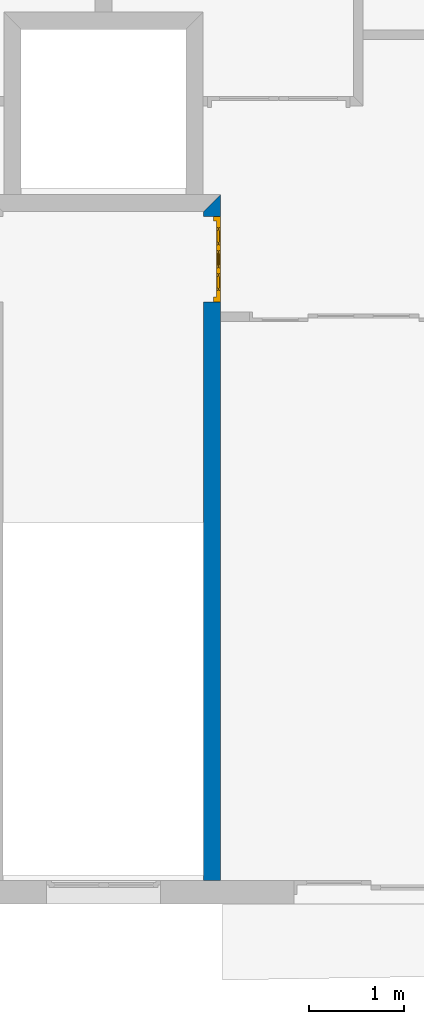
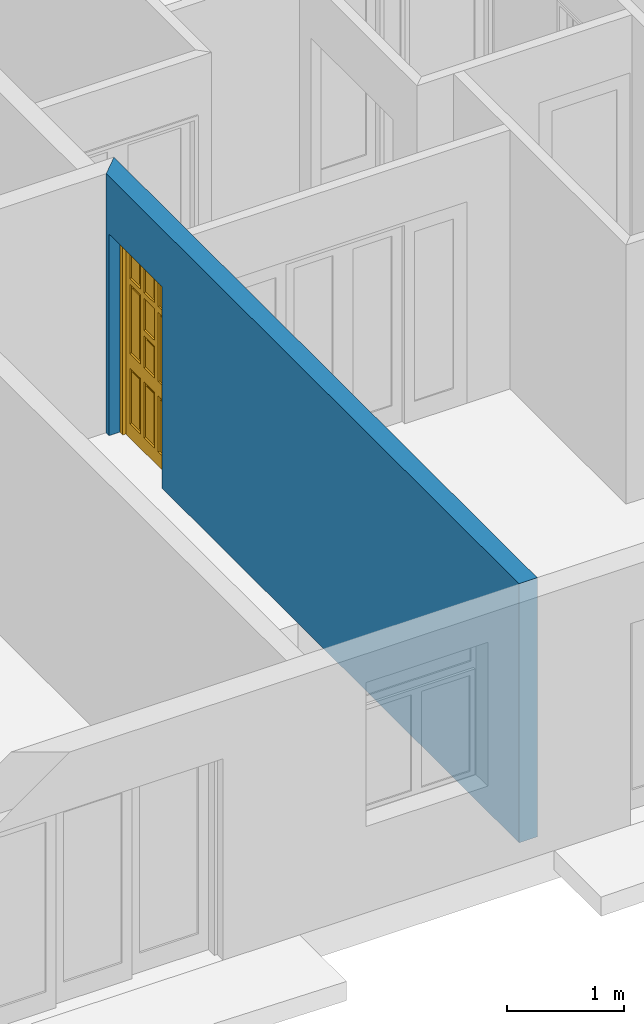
# One storey, part 7 of 13: 1 door, 1 wall, 1 opening.
"""IFC2X3 building model written with IfcOpenShell, lengths in metres."""

from ifc_helpers import new_model, entity, si_unit, converted_unit, direction, frame, frame_2d, origin_with_axes, place, context, project, spatial, polyline, rectangle, outline, extrude, faceted_brep, source, transform, mapped, material, layer, layer_set, layer_usage, type_object, element, fill, save


model = new_model("IFC2X3")

# Units and contexts
context_of_model = context(None, 3, precision=1e-05, world=origin_with_axes(), true_north=direction((6.123234e-17, 1.0)))
plan_context = context("Plan", 3, precision=1e-05, world=origin_with_axes(), true_north=direction((6.123234e-17, 1.0)))
model_context = context("Model", 3, precision=1e-05, world=origin_with_axes(), true_north=direction((6.123234e-17, 1.0)))
ifc_project = project(units=[si_unit("LENGTHUNIT", "METRE"), si_unit("AREAUNIT", "SQUARE_METRE"), si_unit("VOLUMEUNIT", "CUBIC_METRE"), converted_unit("PLANEANGLEUNIT", "DEGREE", entity("IfcPlaneAngleMeasure", 0.017453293), si_unit("PLANEANGLEUNIT", "RADIAN"), dimensions=[0, 0, 0, 0, 0, 0, 0]), si_unit("SOLIDANGLEUNIT", "STERADIAN"), si_unit("MASSUNIT", "GRAM"), si_unit("TIMEUNIT", "SECOND"), si_unit("THERMODYNAMICTEMPERATUREUNIT", "DEGREE_CELSIUS"), si_unit("LUMINOUSINTENSITYUNIT", "LUMEN")], contexts=[context_of_model, plan_context, model_context])

# Site, building, storey
site_placement = place(None, origin_with_axes())
site = spatial("IfcSite", under=ifc_project, at=site_placement, Name="Por defecto Sitio", CompositionType="ELEMENT")
building_placement = place(site_placement, origin_with_axes())
building = spatial("IfcBuilding", under=site, at=building_placement, Name="Por defecto Edificio", CompositionType="ELEMENT")
storey_placement = place(building_placement, frame((0.0, 0.0, 7.2), z_axis=(0.0, 0.0, 1.0), x_axis=(1.0, 0.0, 0.0)))
storey = spatial("IfcBuildingStorey", under=building, at=storey_placement, Name="Segunda", CompositionType="ELEMENT", Elevation=7.2)

# Wall, opening, door
ifc_material = material(Name="Ladrillo común")
ifc_layer = layer(ifc_material, 0.18, ventilated="UNKNOWN")
ifc_layer_set = layer_set([ifc_layer], Name="Ladrillo común")
ifc_layer_usage = layer_usage(ifc_layer_set, "AXIS2", "POSITIVE", 0.0)
wall_type = type_object("IfcWallType", Name="Ladrillo común", PredefinedType="NOTDEFINED")
wall_placement = place(storey_placement, frame((9.0691698, 7.2976562, 0.0), z_axis=(0.0, 0.0, 1.0), x_axis=(0.0, -1.0, 0.0)))
wall = element("IfcWallStandardCase", 1, at=wall_placement, inside=storey, type_object=wall_type, material=ifc_layer_usage, Name="Muro-010", context=context_of_model, shape_type="SweptSolid", body=[
    extrude(outline(polyline([(0.0, 0.0), (7.0476562, 0.0), (7.0476562, 0.18), (-0.18, 0.18), (0.0, 0.0)])), origin_with_axes(), (0.0, 0.0, 1.0), 2.7),
])
opening_placement = place(wall_placement, frame((0.5, 0.0, 0.0), z_axis=(0.0, 0.0, 1.0), x_axis=(1.0, 0.0, 0.0)))
opening = element("IfcOpeningElement", 2, at=opening_placement, cuts=wall, ObjectType="Opening", context=model_context, shape_type="SweptSolid", body=[
    extrude(rectangle(XDim=0.9, YDim=2.1, at=frame_2d((0.0, 1.05), x_axis=(-1.0, 0.0))), frame((0.0, 0.0, 0.0), z_axis=(0.0, 1.0, 0.0), x_axis=(-1.0, 0.0, 0.0)), (0.0, 0.0, 1.0), 0.18),
])
door_style = type_object("IfcDoorStyle", Name="P1 Entrada 12", ConstructionType="NOTDEFINED", OperationType="SINGLE_SWING_RIGHT", ParameterTakesPrecedence=False, Sizeable=False)
shared_shape = source(origin_with_axes(), model_context, "Body", "Brep", [
    faceted_brep([(0.05, 0.031, 0.0), (0.05, 0.031, 2.05), (0.05, 0.0, 2.05), (0.05, 0.0, 0.0), (0.038, 0.031, 2.05), (0.038, 0.031, 0.0), (0.038, 0.075, 2.05), (0.0, 0.075, 2.05), (0.0, 0.0, 2.05), (0.0, 0.0, 0.0), (0.0, 0.075, 0.0), (0.038, 0.075, 0.0)], [[[0, 1, 2, 3]], [[4, 1, 0, 5]], [[4, 6, 7, 8, 2, 1]], [[9, 3, 2, 8]], [[5, 0, 3, 9, 10, 11]], [[6, 4, 5, 11]], [[6, 11, 10, 7]], [[8, 7, 10, 9]]]),
    faceted_brep([(0.862, 0.031, 2.05), (0.85, 0.031, 2.05), (0.85, 0.0, 2.05), (0.9, 0.0, 2.05), (0.9, 0.075, 2.05), (0.862, 0.075, 2.05), (0.862, 0.031, 0.0), (0.85, 0.031, 0.0), (0.85, 0.0, 0.0), (0.9, 0.0, 0.0), (0.9, 0.075, 0.0), (0.862, 0.075, 0.0)], [[[0, 1, 2, 3, 4, 5]], [[1, 0, 6, 7]], [[1, 7, 8, 2]], [[8, 9, 3, 2]], [[9, 10, 4, 3]], [[11, 5, 4, 10]], [[0, 5, 11, 6]], [[6, 11, 10, 9, 8, 7]]]),
    faceted_brep([(0.038, 0.075, 2.062), (0.038, 0.075, 2.05), (0.0, 0.075, 2.05), (0.0, 0.075, 2.1), (0.9, 0.075, 2.1), (0.9, 0.075, 2.05), (0.862, 0.075, 2.05), (0.862, 0.075, 2.062), (0.038, 0.031, 2.062), (0.038, 0.031, 2.05), (0.05, 0.031, 2.05), (0.05, 0.0, 2.05), (0.0, 0.0, 2.05), (0.0, 0.0, 2.1), (0.9, 0.0, 2.1), (0.9, 0.0, 2.05), (0.862, 0.031, 2.05), (0.85, 0.0, 2.05), (0.85, 0.031, 2.05), (0.862, 0.031, 2.062)], [[[0, 1, 2, 3, 4, 5, 6, 7]], [[1, 0, 8, 9]], [[9, 10, 11, 12, 2, 1]], [[13, 3, 2, 12]], [[14, 4, 3, 13]], [[15, 5, 4, 14]], [[16, 6, 5, 15, 17, 18]], [[7, 6, 16, 19]], [[0, 7, 19, 8]], [[16, 18, 10, 9, 8, 19]], [[10, 18, 17, 11]], [[14, 13, 12, 11, 17, 15]]]),
    faceted_brep([(0.862, 0.075, 0.15), (0.862, 0.031, 0.15), (0.782, 0.031, 0.15), (0.782, 0.075, 0.15), (0.862, 0.075, 1.952), (0.862, 0.031, 1.952), (0.782, 0.031, 1.952), (0.782, 0.031, 1.6618667), (0.782, 0.031, 1.6018667), (0.782, 0.031, 0.88), (0.782, 0.031, 0.73), (0.782, 0.075, 0.73), (0.782, 0.075, 0.88), (0.782, 0.075, 1.6018667), (0.782, 0.075, 1.6618667), (0.782, 0.075, 1.952)], [[[0, 1, 2, 3]], [[4, 5, 1, 0]], [[1, 5, 6, 7, 8, 9, 10, 2]], [[3, 2, 10, 11]], [[0, 3, 11, 12, 13, 14, 15, 4]], [[15, 6, 5, 4]], [[14, 7, 6, 15]], [[13, 8, 7, 14]], [[12, 9, 8, 13]], [[11, 10, 9, 12]]]),
    faceted_brep([(0.038, 0.075, 0.15), (0.038, 0.031, 0.15), (0.038, 0.031, 1.952), (0.038, 0.075, 1.952), (0.118, 0.075, 0.15), (0.118, 0.031, 0.15), (0.118, 0.031, 0.73), (0.118, 0.031, 0.88), (0.118, 0.031, 1.6018667), (0.118, 0.031, 1.6618667), (0.118, 0.031, 1.952), (0.118, 0.075, 1.952), (0.118, 0.075, 1.6618667), (0.118, 0.075, 1.6018667), (0.118, 0.075, 0.88), (0.118, 0.075, 0.73)], [[[0, 1, 2, 3]], [[4, 5, 1, 0]], [[1, 5, 6, 7, 8, 9, 10, 2]], [[3, 2, 10, 11]], [[0, 3, 11, 12, 13, 14, 15, 4]], [[15, 6, 5, 4]], [[14, 7, 6, 15]], [[13, 8, 7, 14]], [[12, 9, 8, 13]], [[11, 10, 9, 12]]]),
    faceted_brep([(0.862, 0.075, 0.0), (0.862, 0.031, 0.0), (0.038, 0.031, 0.0), (0.038, 0.075, 0.0), (0.862, 0.075, 0.15), (0.862, 0.031, 0.15), (0.782, 0.031, 0.15), (0.60066667, 0.031, 0.15), (0.54066667, 0.031, 0.15), (0.35933333, 0.031, 0.15), (0.29933333, 0.031, 0.15), (0.118, 0.031, 0.15), (0.038, 0.031, 0.15), (0.038, 0.075, 0.15), (0.118, 0.075, 0.15), (0.29933333, 0.075, 0.15), (0.35933333, 0.075, 0.15), (0.54066667, 0.075, 0.15), (0.60066667, 0.075, 0.15), (0.782, 0.075, 0.15)], [[[0, 1, 2, 3]], [[4, 5, 1, 0]], [[1, 5, 6, 7, 8, 9, 10, 11, 12, 2]], [[3, 2, 12, 13]], [[0, 3, 13, 14, 15, 16, 17, 18, 19, 4]], [[19, 6, 5, 4]], [[18, 7, 6, 19]], [[17, 8, 7, 18]], [[16, 9, 8, 17]], [[15, 10, 9, 16]], [[14, 11, 10, 15]], [[13, 12, 11, 14]]]),
    faceted_brep([(0.862, 0.075, 2.062), (0.862, 0.031, 2.062), (0.862, 0.031, 1.952), (0.862, 0.075, 1.952), (0.038, 0.075, 2.062), (0.038, 0.031, 2.062), (0.038, 0.031, 1.952), (0.118, 0.031, 1.952), (0.29933333, 0.031, 1.952), (0.35933333, 0.031, 1.952), (0.54066667, 0.031, 1.952), (0.60066667, 0.031, 1.952), (0.782, 0.031, 1.952), (0.782, 0.075, 1.952), (0.60066667, 0.075, 1.952), (0.54066667, 0.075, 1.952), (0.35933333, 0.075, 1.952), (0.29933333, 0.075, 1.952), (0.118, 0.075, 1.952), (0.038, 0.075, 1.952)], [[[0, 1, 2, 3]], [[4, 5, 1, 0]], [[1, 5, 6, 7, 8, 9, 10, 11, 12, 2]], [[3, 2, 12, 13]], [[0, 3, 13, 14, 15, 16, 17, 18, 19, 4]], [[19, 6, 5, 4]], [[18, 7, 6, 19]], [[17, 8, 7, 18]], [[16, 9, 8, 17]], [[15, 10, 9, 16]], [[14, 11, 10, 15]], [[13, 12, 11, 14]]]),
    faceted_brep([(0.54066667, 0.075, 0.15), (0.54066667, 0.031, 0.15), (0.54066667, 0.031, 0.73), (0.54066667, 0.075, 0.73), (0.60066667, 0.075, 0.15), (0.60066667, 0.031, 0.15), (0.60066667, 0.031, 0.73), (0.60066667, 0.075, 0.73)], [[[0, 1, 2, 3]], [[4, 5, 1, 0]], [[1, 5, 6, 2]], [[3, 2, 6, 7]], [[0, 3, 7, 4]], [[7, 6, 5, 4]]]),
    faceted_brep([(0.54066667, 0.075, 0.88), (0.54066667, 0.031, 0.88), (0.54066667, 0.031, 1.2109333), (0.54066667, 0.075, 1.2109333), (0.60066667, 0.075, 0.88), (0.60066667, 0.031, 0.88), (0.60066667, 0.031, 1.6018667), (0.54066667, 0.031, 1.6018667), (0.54066667, 0.031, 1.2709333), (0.54066667, 0.075, 1.2709333), (0.54066667, 0.075, 1.6018667), (0.60066667, 0.075, 1.6018667)], [[[0, 1, 2, 3]], [[4, 5, 1, 0]], [[1, 5, 6, 7, 8, 2]], [[3, 2, 8, 9]], [[0, 3, 9, 10, 11, 4]], [[11, 6, 5, 4]], [[10, 7, 6, 11]], [[9, 8, 7, 10]]]),
    faceted_brep([(0.54066667, 0.075, 1.6618667), (0.54066667, 0.031, 1.6618667), (0.54066667, 0.031, 1.952), (0.54066667, 0.075, 1.952), (0.60066667, 0.075, 1.6618667), (0.60066667, 0.031, 1.6618667), (0.60066667, 0.031, 1.952), (0.60066667, 0.075, 1.952)], [[[0, 1, 2, 3]], [[4, 5, 1, 0]], [[1, 5, 6, 2]], [[3, 2, 6, 7]], [[0, 3, 7, 4]], [[7, 6, 5, 4]]]),
    faceted_brep([(0.29933333, 0.075, 0.15), (0.29933333, 0.031, 0.15), (0.29933333, 0.031, 0.73), (0.29933333, 0.075, 0.73), (0.35933333, 0.075, 0.15), (0.35933333, 0.031, 0.15), (0.35933333, 0.031, 0.73), (0.35933333, 0.075, 0.73)], [[[0, 1, 2, 3]], [[4, 5, 1, 0]], [[1, 5, 6, 2]], [[3, 2, 6, 7]], [[0, 3, 7, 4]], [[7, 6, 5, 4]]]),
    faceted_brep([(0.29933333, 0.075, 0.88), (0.29933333, 0.031, 0.88), (0.29933333, 0.031, 1.6018667), (0.29933333, 0.075, 1.6018667), (0.35933333, 0.075, 0.88), (0.35933333, 0.031, 0.88), (0.35933333, 0.031, 1.2109333), (0.35933333, 0.031, 1.2709333), (0.35933333, 0.031, 1.6018667), (0.35933333, 0.075, 1.6018667), (0.35933333, 0.075, 1.2709333), (0.35933333, 0.075, 1.2109333)], [[[0, 1, 2, 3]], [[4, 5, 1, 0]], [[1, 5, 6, 7, 8, 2]], [[3, 2, 8, 9]], [[0, 3, 9, 10, 11, 4]], [[11, 6, 5, 4]], [[10, 7, 6, 11]], [[9, 8, 7, 10]]]),
    faceted_brep([(0.29933333, 0.075, 1.6618667), (0.29933333, 0.031, 1.6618667), (0.29933333, 0.031, 1.952), (0.29933333, 0.075, 1.952), (0.35933333, 0.075, 1.6618667), (0.35933333, 0.031, 1.6618667), (0.35933333, 0.031, 1.952), (0.35933333, 0.075, 1.952)], [[[0, 1, 2, 3]], [[4, 5, 1, 0]], [[1, 5, 6, 2]], [[3, 2, 6, 7]], [[0, 3, 7, 4]], [[7, 6, 5, 4]]]),
    faceted_brep([(0.782, 0.075, 1.6018667), (0.782, 0.031, 1.6018667), (0.60066667, 0.031, 1.6018667), (0.60066667, 0.075, 1.6018667), (0.782, 0.075, 1.6618667), (0.782, 0.031, 1.6618667), (0.60066667, 0.031, 1.6618667), (0.54066667, 0.031, 1.6618667), (0.35933333, 0.031, 1.6618667), (0.29933333, 0.031, 1.6618667), (0.118, 0.031, 1.6618667), (0.118, 0.031, 1.6018667), (0.29933333, 0.031, 1.6018667), (0.35933333, 0.031, 1.6018667), (0.54066667, 0.031, 1.6018667), (0.54066667, 0.075, 1.6018667), (0.35933333, 0.075, 1.6018667), (0.29933333, 0.075, 1.6018667), (0.118, 0.075, 1.6018667), (0.118, 0.075, 1.6618667), (0.29933333, 0.075, 1.6618667), (0.35933333, 0.075, 1.6618667), (0.54066667, 0.075, 1.6618667), (0.60066667, 0.075, 1.6618667)], [[[0, 1, 2, 3]], [[4, 5, 1, 0]], [[1, 5, 6, 7, 8, 9, 10, 11, 12, 13, 14, 2]], [[3, 2, 14, 15]], [[0, 3, 15, 16, 17, 18, 19, 20, 21, 22, 23, 4]], [[23, 6, 5, 4]], [[22, 7, 6, 23]], [[21, 8, 7, 22]], [[20, 9, 8, 21]], [[19, 10, 9, 20]], [[18, 11, 10, 19]], [[17, 12, 11, 18]], [[16, 13, 12, 17]], [[15, 14, 13, 16]]]),
    faceted_brep([(0.35933333, 0.075, 1.2109333), (0.35933333, 0.031, 1.2109333), (0.35933333, 0.031, 1.2709333), (0.35933333, 0.075, 1.2709333), (0.54066667, 0.075, 1.2109333), (0.54066667, 0.031, 1.2109333), (0.54066667, 0.031, 1.2709333), (0.54066667, 0.075, 1.2709333)], [[[0, 1, 2, 3]], [[4, 5, 1, 0]], [[1, 5, 6, 2]], [[3, 2, 6, 7]], [[0, 3, 7, 4]], [[7, 6, 5, 4]]]),
    faceted_brep([(0.782, 0.075, 0.73), (0.782, 0.031, 0.73), (0.60066667, 0.031, 0.73), (0.60066667, 0.075, 0.73), (0.782, 0.075, 0.88), (0.782, 0.031, 0.88), (0.60066667, 0.031, 0.88), (0.54066667, 0.031, 0.88), (0.35933333, 0.031, 0.88), (0.29933333, 0.031, 0.88), (0.118, 0.031, 0.88), (0.118, 0.031, 0.73), (0.29933333, 0.031, 0.73), (0.35933333, 0.031, 0.73), (0.54066667, 0.031, 0.73), (0.54066667, 0.075, 0.73), (0.35933333, 0.075, 0.73), (0.29933333, 0.075, 0.73), (0.118, 0.075, 0.73), (0.118, 0.075, 0.88), (0.29933333, 0.075, 0.88), (0.35933333, 0.075, 0.88), (0.54066667, 0.075, 0.88), (0.60066667, 0.075, 0.88)], [[[0, 1, 2, 3]], [[4, 5, 1, 0]], [[1, 5, 6, 7, 8, 9, 10, 11, 12, 13, 14, 2]], [[3, 2, 14, 15]], [[0, 3, 15, 16, 17, 18, 19, 20, 21, 22, 23, 4]], [[23, 6, 5, 4]], [[22, 7, 6, 23]], [[21, 8, 7, 22]], [[20, 9, 8, 21]], [[19, 10, 9, 20]], [[18, 11, 10, 19]], [[17, 12, 11, 18]], [[16, 13, 12, 17]], [[15, 14, 13, 16]]]),
    faceted_brep([(0.782, 0.058, 0.15), (0.782, 0.048, 0.15), (0.60066667, 0.048, 0.15), (0.60066667, 0.058, 0.15), (0.782, 0.058, 0.73), (0.782, 0.048, 0.73), (0.60066667, 0.048, 0.73), (0.60066667, 0.058, 0.73)], [[[0, 1, 2, 3]], [[4, 5, 1, 0]], [[1, 5, 6, 2]], [[3, 2, 6, 7]], [[0, 3, 7, 4]], [[7, 6, 5, 4]]]),
    faceted_brep([(0.54066667, 0.058, 0.15), (0.54066667, 0.048, 0.15), (0.35933333, 0.048, 0.15), (0.35933333, 0.058, 0.15), (0.54066667, 0.058, 0.73), (0.54066667, 0.048, 0.73), (0.35933333, 0.048, 0.73), (0.35933333, 0.058, 0.73)], [[[0, 1, 2, 3]], [[4, 5, 1, 0]], [[1, 5, 6, 2]], [[3, 2, 6, 7]], [[0, 3, 7, 4]], [[7, 6, 5, 4]]]),
    faceted_brep([(0.29933333, 0.058, 0.15), (0.29933333, 0.048, 0.15), (0.118, 0.048, 0.15), (0.118, 0.058, 0.15), (0.29933333, 0.058, 0.73), (0.29933333, 0.048, 0.73), (0.118, 0.048, 0.73), (0.118, 0.058, 0.73)], [[[0, 1, 2, 3]], [[4, 5, 1, 0]], [[1, 5, 6, 2]], [[3, 2, 6, 7]], [[0, 3, 7, 4]], [[7, 6, 5, 4]]]),
    faceted_brep([(0.782, 0.058, 1.6618667), (0.782, 0.048, 1.6618667), (0.60066667, 0.048, 1.6618667), (0.60066667, 0.058, 1.6618667), (0.782, 0.058, 1.952), (0.782, 0.048, 1.952), (0.60066667, 0.048, 1.952), (0.60066667, 0.058, 1.952)], [[[0, 1, 2, 3]], [[4, 5, 1, 0]], [[1, 5, 6, 2]], [[3, 2, 6, 7]], [[0, 3, 7, 4]], [[7, 6, 5, 4]]]),
    faceted_brep([(0.54066667, 0.058, 1.6618667), (0.54066667, 0.048, 1.6618667), (0.35933333, 0.048, 1.6618667), (0.35933333, 0.058, 1.6618667), (0.54066667, 0.058, 1.952), (0.54066667, 0.048, 1.952), (0.35933333, 0.048, 1.952), (0.35933333, 0.058, 1.952)], [[[0, 1, 2, 3]], [[4, 5, 1, 0]], [[1, 5, 6, 2]], [[3, 2, 6, 7]], [[0, 3, 7, 4]], [[7, 6, 5, 4]]]),
    faceted_brep([(0.29933333, 0.058, 1.6618667), (0.29933333, 0.048, 1.6618667), (0.118, 0.048, 1.6618667), (0.118, 0.058, 1.6618667), (0.29933333, 0.058, 1.952), (0.29933333, 0.048, 1.952), (0.118, 0.048, 1.952), (0.118, 0.058, 1.952)], [[[0, 1, 2, 3]], [[4, 5, 1, 0]], [[1, 5, 6, 2]], [[3, 2, 6, 7]], [[0, 3, 7, 4]], [[7, 6, 5, 4]]]),
    faceted_brep([(0.782, 0.058, 0.88), (0.782, 0.048, 0.88), (0.60066667, 0.048, 0.88), (0.60066667, 0.058, 0.88), (0.782, 0.058, 1.6018667), (0.782, 0.048, 1.6018667), (0.60066667, 0.048, 1.6018667), (0.60066667, 0.058, 1.6018667)], [[[0, 1, 2, 3]], [[4, 5, 1, 0]], [[1, 5, 6, 2]], [[3, 2, 6, 7]], [[0, 3, 7, 4]], [[7, 6, 5, 4]]]),
    faceted_brep([(0.54066667, 0.058, 0.88), (0.54066667, 0.048, 0.88), (0.35933333, 0.048, 0.88), (0.35933333, 0.058, 0.88), (0.54066667, 0.058, 1.2109333), (0.54066667, 0.048, 1.2109333), (0.35933333, 0.048, 1.2109333), (0.35933333, 0.058, 1.2109333)], [[[0, 1, 2, 3]], [[4, 5, 1, 0]], [[1, 5, 6, 2]], [[3, 2, 6, 7]], [[0, 3, 7, 4]], [[7, 6, 5, 4]]]),
    faceted_brep([(0.29933333, 0.058, 0.88), (0.29933333, 0.048, 0.88), (0.118, 0.048, 0.88), (0.118, 0.058, 0.88), (0.29933333, 0.058, 1.6018667), (0.29933333, 0.048, 1.6018667), (0.118, 0.048, 1.6018667), (0.118, 0.058, 1.6018667)], [[[0, 1, 2, 3]], [[4, 5, 1, 0]], [[1, 5, 6, 2]], [[3, 2, 6, 7]], [[0, 3, 7, 4]], [[7, 6, 5, 4]]]),
    faceted_brep([(0.54066667, 0.058, 1.2709333), (0.54066667, 0.048, 1.2709333), (0.35933333, 0.048, 1.2709333), (0.35933333, 0.058, 1.2709333), (0.54066667, 0.058, 1.6018667), (0.54066667, 0.048, 1.6018667), (0.35933333, 0.048, 1.6018667), (0.35933333, 0.058, 1.6018667)], [[[0, 1, 2, 3]], [[4, 5, 1, 0]], [[1, 5, 6, 2]], [[3, 2, 6, 7]], [[0, 3, 7, 4]], [[7, 6, 5, 4]]]),
    faceted_brep([(0.752, 0.066, 0.18), (0.752, 0.058, 0.18), (0.63066667, 0.058, 0.18), (0.63066667, 0.066, 0.18), (0.752, 0.066, 0.7), (0.752, 0.058, 0.7), (0.63066667, 0.058, 0.7), (0.63066667, 0.066, 0.7)], [[[0, 1, 2, 3]], [[4, 5, 1, 0]], [[1, 5, 6, 2]], [[3, 2, 6, 7]], [[0, 3, 7, 4]], [[7, 6, 5, 4]]]),
    faceted_brep([(0.51066667, 0.066, 0.18), (0.51066667, 0.058, 0.18), (0.38933333, 0.058, 0.18), (0.38933333, 0.066, 0.18), (0.51066667, 0.066, 0.7), (0.51066667, 0.058, 0.7), (0.38933333, 0.058, 0.7), (0.38933333, 0.066, 0.7)], [[[0, 1, 2, 3]], [[4, 5, 1, 0]], [[1, 5, 6, 2]], [[3, 2, 6, 7]], [[0, 3, 7, 4]], [[7, 6, 5, 4]]]),
    faceted_brep([(0.26933333, 0.066, 0.18), (0.26933333, 0.058, 0.18), (0.148, 0.058, 0.18), (0.148, 0.066, 0.18), (0.26933333, 0.066, 0.7), (0.26933333, 0.058, 0.7), (0.148, 0.058, 0.7), (0.148, 0.066, 0.7)], [[[0, 1, 2, 3]], [[4, 5, 1, 0]], [[1, 5, 6, 2]], [[3, 2, 6, 7]], [[0, 3, 7, 4]], [[7, 6, 5, 4]]]),
    faceted_brep([(0.752, 0.066, 1.6918667), (0.752, 0.058, 1.6918667), (0.63066667, 0.058, 1.6918667), (0.63066667, 0.066, 1.6918667), (0.752, 0.066, 1.922), (0.752, 0.058, 1.922), (0.63066667, 0.058, 1.922), (0.63066667, 0.066, 1.922)], [[[0, 1, 2, 3]], [[4, 5, 1, 0]], [[1, 5, 6, 2]], [[3, 2, 6, 7]], [[0, 3, 7, 4]], [[7, 6, 5, 4]]]),
    faceted_brep([(0.51066667, 0.066, 1.6918667), (0.51066667, 0.058, 1.6918667), (0.38933333, 0.058, 1.6918667), (0.38933333, 0.066, 1.6918667), (0.51066667, 0.066, 1.922), (0.51066667, 0.058, 1.922), (0.38933333, 0.058, 1.922), (0.38933333, 0.066, 1.922)], [[[0, 1, 2, 3]], [[4, 5, 1, 0]], [[1, 5, 6, 2]], [[3, 2, 6, 7]], [[0, 3, 7, 4]], [[7, 6, 5, 4]]]),
    faceted_brep([(0.26933333, 0.066, 1.6918667), (0.26933333, 0.058, 1.6918667), (0.148, 0.058, 1.6918667), (0.148, 0.066, 1.6918667), (0.26933333, 0.066, 1.922), (0.26933333, 0.058, 1.922), (0.148, 0.058, 1.922), (0.148, 0.066, 1.922)], [[[0, 1, 2, 3]], [[4, 5, 1, 0]], [[1, 5, 6, 2]], [[3, 2, 6, 7]], [[0, 3, 7, 4]], [[7, 6, 5, 4]]]),
    faceted_brep([(0.752, 0.066, 0.91), (0.752, 0.058, 0.91), (0.63066667, 0.058, 0.91), (0.63066667, 0.066, 0.91), (0.752, 0.066, 1.5718667), (0.752, 0.058, 1.5718667), (0.63066667, 0.058, 1.5718667), (0.63066667, 0.066, 1.5718667)], [[[0, 1, 2, 3]], [[4, 5, 1, 0]], [[1, 5, 6, 2]], [[3, 2, 6, 7]], [[0, 3, 7, 4]], [[7, 6, 5, 4]]]),
    faceted_brep([(0.51066667, 0.066, 0.91), (0.51066667, 0.058, 0.91), (0.38933333, 0.058, 0.91), (0.38933333, 0.066, 0.91), (0.51066667, 0.066, 1.1809333), (0.51066667, 0.058, 1.1809333), (0.38933333, 0.058, 1.1809333), (0.38933333, 0.066, 1.1809333)], [[[0, 1, 2, 3]], [[4, 5, 1, 0]], [[1, 5, 6, 2]], [[3, 2, 6, 7]], [[0, 3, 7, 4]], [[7, 6, 5, 4]]]),
    faceted_brep([(0.26933333, 0.066, 0.91), (0.26933333, 0.058, 0.91), (0.148, 0.058, 0.91), (0.148, 0.066, 0.91), (0.26933333, 0.066, 1.5718667), (0.26933333, 0.058, 1.5718667), (0.148, 0.058, 1.5718667), (0.148, 0.066, 1.5718667)], [[[0, 1, 2, 3]], [[4, 5, 1, 0]], [[1, 5, 6, 2]], [[3, 2, 6, 7]], [[0, 3, 7, 4]], [[7, 6, 5, 4]]]),
    faceted_brep([(0.752, 0.048, 0.18), (0.752, 0.04, 0.18), (0.63066667, 0.04, 0.18), (0.63066667, 0.048, 0.18), (0.752, 0.048, 0.7), (0.752, 0.04, 0.7), (0.63066667, 0.04, 0.7), (0.63066667, 0.048, 0.7)], [[[0, 1, 2, 3]], [[4, 5, 1, 0]], [[1, 5, 6, 2]], [[3, 2, 6, 7]], [[0, 3, 7, 4]], [[7, 6, 5, 4]]]),
    faceted_brep([(0.51066667, 0.048, 0.18), (0.51066667, 0.04, 0.18), (0.38933333, 0.04, 0.18), (0.38933333, 0.048, 0.18), (0.51066667, 0.048, 0.7), (0.51066667, 0.04, 0.7), (0.38933333, 0.04, 0.7), (0.38933333, 0.048, 0.7)], [[[0, 1, 2, 3]], [[4, 5, 1, 0]], [[1, 5, 6, 2]], [[3, 2, 6, 7]], [[0, 3, 7, 4]], [[7, 6, 5, 4]]]),
    faceted_brep([(0.26933333, 0.048, 0.18), (0.26933333, 0.04, 0.18), (0.148, 0.04, 0.18), (0.148, 0.048, 0.18), (0.26933333, 0.048, 0.7), (0.26933333, 0.04, 0.7), (0.148, 0.04, 0.7), (0.148, 0.048, 0.7)], [[[0, 1, 2, 3]], [[4, 5, 1, 0]], [[1, 5, 6, 2]], [[3, 2, 6, 7]], [[0, 3, 7, 4]], [[7, 6, 5, 4]]]),
    faceted_brep([(0.752, 0.048, 1.6918667), (0.752, 0.04, 1.6918667), (0.63066667, 0.04, 1.6918667), (0.63066667, 0.048, 1.6918667), (0.752, 0.048, 1.922), (0.752, 0.04, 1.922), (0.63066667, 0.04, 1.922), (0.63066667, 0.048, 1.922)], [[[0, 1, 2, 3]], [[4, 5, 1, 0]], [[1, 5, 6, 2]], [[3, 2, 6, 7]], [[0, 3, 7, 4]], [[7, 6, 5, 4]]]),
    faceted_brep([(0.51066667, 0.048, 1.6918667), (0.51066667, 0.04, 1.6918667), (0.38933333, 0.04, 1.6918667), (0.38933333, 0.048, 1.6918667), (0.51066667, 0.048, 1.922), (0.51066667, 0.04, 1.922), (0.38933333, 0.04, 1.922), (0.38933333, 0.048, 1.922)], [[[0, 1, 2, 3]], [[4, 5, 1, 0]], [[1, 5, 6, 2]], [[3, 2, 6, 7]], [[0, 3, 7, 4]], [[7, 6, 5, 4]]]),
    faceted_brep([(0.26933333, 0.048, 1.6918667), (0.26933333, 0.04, 1.6918667), (0.148, 0.04, 1.6918667), (0.148, 0.048, 1.6918667), (0.26933333, 0.048, 1.922), (0.26933333, 0.04, 1.922), (0.148, 0.04, 1.922), (0.148, 0.048, 1.922)], [[[0, 1, 2, 3]], [[4, 5, 1, 0]], [[1, 5, 6, 2]], [[3, 2, 6, 7]], [[0, 3, 7, 4]], [[7, 6, 5, 4]]]),
    faceted_brep([(0.752, 0.048, 0.91), (0.752, 0.04, 0.91), (0.63066667, 0.04, 0.91), (0.63066667, 0.048, 0.91), (0.752, 0.048, 1.5718667), (0.752, 0.04, 1.5718667), (0.63066667, 0.04, 1.5718667), (0.63066667, 0.048, 1.5718667)], [[[0, 1, 2, 3]], [[4, 5, 1, 0]], [[1, 5, 6, 2]], [[3, 2, 6, 7]], [[0, 3, 7, 4]], [[7, 6, 5, 4]]]),
    faceted_brep([(0.51066667, 0.048, 0.91), (0.51066667, 0.04, 0.91), (0.38933333, 0.04, 0.91), (0.38933333, 0.048, 0.91), (0.51066667, 0.048, 1.1809333), (0.51066667, 0.04, 1.1809333), (0.38933333, 0.04, 1.1809333), (0.38933333, 0.048, 1.1809333)], [[[0, 1, 2, 3]], [[4, 5, 1, 0]], [[1, 5, 6, 2]], [[3, 2, 6, 7]], [[0, 3, 7, 4]], [[7, 6, 5, 4]]]),
    faceted_brep([(0.26933333, 0.048, 0.91), (0.26933333, 0.04, 0.91), (0.148, 0.04, 0.91), (0.148, 0.048, 0.91), (0.26933333, 0.048, 1.5718667), (0.26933333, 0.04, 1.5718667), (0.148, 0.04, 1.5718667), (0.148, 0.048, 1.5718667)], [[[0, 1, 2, 3]], [[4, 5, 1, 0]], [[1, 5, 6, 2]], [[3, 2, 6, 7]], [[0, 3, 7, 4]], [[7, 6, 5, 4]]]),
])
door_placement = place(opening_placement, frame((-0.45, 0.105, 0.0), z_axis=(0.0, 0.0, 1.0), x_axis=(1.0, 0.0, 0.0)))
door = element("IfcDoor", 3, at=door_placement, inside=storey, type_object=door_style, Name="P14", OverallHeight=2.1, OverallWidth=0.9, context=model_context, shape_type="MappedRepresentation", body=[
    mapped(shared_shape, transform((0.0, 0.0, 0.0), scale=1.0)),
])
fill(opening, door)

save(model, "model.ifc")
